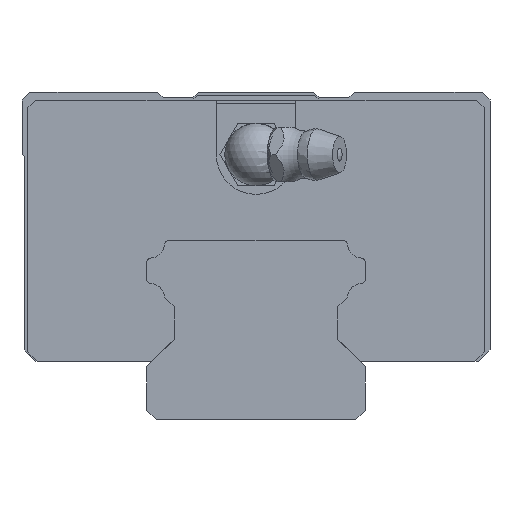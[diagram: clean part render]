
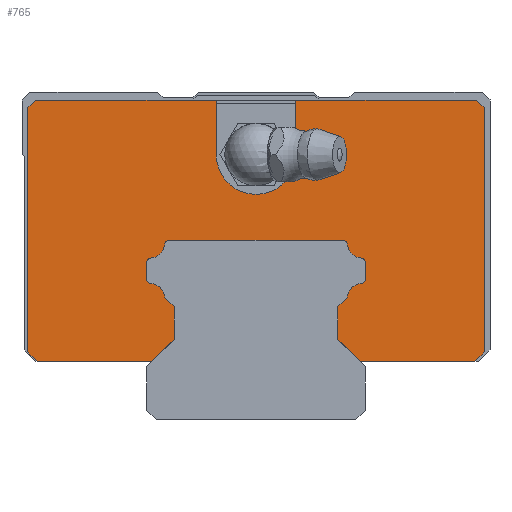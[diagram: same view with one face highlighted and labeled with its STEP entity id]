
A CAD part, front view. The second image highlights one B-rep face of the part: STEP entity #765.
In plain terms, the highlighted planar face has unit normal (0, -1, 0).
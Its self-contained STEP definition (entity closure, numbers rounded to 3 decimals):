
#585=CIRCLE('',#3642,0.5);
#587=CIRCLE('',#3645,2.);
#589=CIRCLE('',#3654,2.);
#591=CIRCLE('',#3657,0.5);
#593=CIRCLE('',#3661,0.5);
#595=CIRCLE('',#3664,2.);
#597=CIRCLE('',#3667,0.5);
#599=CIRCLE('',#3671,0.5);
#601=CIRCLE('',#3674,2.);
#603=CIRCLE('',#3677,0.5);
#617=CIRCLE('',#3713,5.1);
#765=ADVANCED_FACE('',(#1035),#904,.F.);
#904=PLANE('',#3714);
#1035=FACE_OUTER_BOUND('',#1234,.T.);
#1234=EDGE_LOOP('',(#1851,#1852,#1853,#1854,#1855,#1856,#1857,#1858,#1859,
#1860,#1861,#1862,#1863,#1864,#1865,#1866,#1867,#1868,#1869,#1870,#1871,
#1872,#1873,#1874,#1875,#1876,#1877,#1878,#1879,#1880,#1881,#1882));
#1851=ORIENTED_EDGE('',*,*,#2731,.F.);
#1852=ORIENTED_EDGE('',*,*,#2787,.T.);
#1853=ORIENTED_EDGE('',*,*,#2705,.T.);
#1854=ORIENTED_EDGE('',*,*,#2709,.T.);
#1855=ORIENTED_EDGE('',*,*,#2685,.T.);
#1856=ORIENTED_EDGE('',*,*,#2693,.T.);
#1857=ORIENTED_EDGE('',*,*,#2813,.F.);
#1858=ORIENTED_EDGE('',*,*,#2814,.F.);
#1859=ORIENTED_EDGE('',*,*,#2815,.F.);
#1860=ORIENTED_EDGE('',*,*,#2689,.T.);
#1861=ORIENTED_EDGE('',*,*,#2699,.T.);
#1862=ORIENTED_EDGE('',*,*,#2702,.T.);
#1863=ORIENTED_EDGE('',*,*,#2681,.T.);
#1864=ORIENTED_EDGE('',*,*,#2781,.T.);
#1865=ORIENTED_EDGE('',*,*,#2727,.F.);
#1866=ORIENTED_EDGE('',*,*,#2724,.F.);
#1867=ORIENTED_EDGE('',*,*,#2721,.F.);
#1868=ORIENTED_EDGE('',*,*,#2718,.F.);
#1869=ORIENTED_EDGE('',*,*,#2712,.F.);
#1870=ORIENTED_EDGE('',*,*,#2779,.F.);
#1871=ORIENTED_EDGE('',*,*,#2776,.F.);
#1872=ORIENTED_EDGE('',*,*,#2770,.F.);
#1873=ORIENTED_EDGE('',*,*,#2767,.F.);
#1874=ORIENTED_EDGE('',*,*,#2764,.F.);
#1875=ORIENTED_EDGE('',*,*,#2761,.F.);
#1876=ORIENTED_EDGE('',*,*,#2758,.F.);
#1877=ORIENTED_EDGE('',*,*,#2752,.F.);
#1878=ORIENTED_EDGE('',*,*,#2749,.F.);
#1879=ORIENTED_EDGE('',*,*,#2746,.F.);
#1880=ORIENTED_EDGE('',*,*,#2740,.F.);
#1881=ORIENTED_EDGE('',*,*,#2737,.F.);
#1882=ORIENTED_EDGE('',*,*,#2734,.F.);
#2315=VERTEX_POINT('',#5234);
#2317=VERTEX_POINT('',#5237);
#2319=VERTEX_POINT('',#5243);
#2321=VERTEX_POINT('',#5246);
#2323=VERTEX_POINT('',#5252);
#2325=VERTEX_POINT('',#5255);
#2328=VERTEX_POINT('',#5261);
#2331=VERTEX_POINT('',#5271);
#2334=VERTEX_POINT('',#5282);
#2336=VERTEX_POINT('',#5285);
#2340=VERTEX_POINT('',#5297);
#2341=VERTEX_POINT('',#5299);
#2346=VERTEX_POINT('',#5323);
#2348=VERTEX_POINT('',#5329);
#2350=VERTEX_POINT('',#5335);
#2352=VERTEX_POINT('',#5341);
#2354=VERTEX_POINT('',#5347);
#2356=VERTEX_POINT('',#5350);
#2358=VERTEX_POINT('',#5356);
#2360=VERTEX_POINT('',#5362);
#2362=VERTEX_POINT('',#5368);
#2367=VERTEX_POINT('',#5392);
#2369=VERTEX_POINT('',#5398);
#2371=VERTEX_POINT('',#5404);
#2376=VERTEX_POINT('',#5428);
#2378=VERTEX_POINT('',#5434);
#2380=VERTEX_POINT('',#5440);
#2382=VERTEX_POINT('',#5446);
#2384=VERTEX_POINT('',#5452);
#2389=VERTEX_POINT('',#5476);
#2415=VERTEX_POINT('',#5561);
#2416=VERTEX_POINT('',#5563);
#2681=EDGE_CURVE('',#2317,#2315,#3039,.T.);
#2685=EDGE_CURVE('',#2321,#2319,#3043,.T.);
#2689=EDGE_CURVE('',#2325,#2323,#3047,.T.);
#2693=EDGE_CURVE('',#2319,#2328,#3051,.T.);
#2699=EDGE_CURVE('',#2323,#2331,#3057,.T.);
#2702=EDGE_CURVE('',#2331,#2317,#3059,.T.);
#2705=EDGE_CURVE('',#2336,#2334,#3062,.T.);
#2709=EDGE_CURVE('',#2334,#2321,#3065,.T.);
#2712=EDGE_CURVE('',#2340,#2341,#585,.T.);
#2718=EDGE_CURVE('',#2341,#2346,#587,.T.);
#2721=EDGE_CURVE('',#2346,#2348,#3069,.T.);
#2724=EDGE_CURVE('',#2348,#2350,#3072,.T.);
#2727=EDGE_CURVE('',#2350,#2352,#3075,.T.);
#2731=EDGE_CURVE('',#2354,#2356,#3079,.T.);
#2734=EDGE_CURVE('',#2356,#2358,#3082,.T.);
#2737=EDGE_CURVE('',#2358,#2360,#3085,.T.);
#2740=EDGE_CURVE('',#2360,#2362,#589,.T.);
#2746=EDGE_CURVE('',#2362,#2367,#591,.T.);
#2749=EDGE_CURVE('',#2367,#2369,#3089,.T.);
#2752=EDGE_CURVE('',#2369,#2371,#593,.T.);
#2758=EDGE_CURVE('',#2371,#2376,#595,.T.);
#2761=EDGE_CURVE('',#2376,#2378,#597,.T.);
#2764=EDGE_CURVE('',#2378,#2380,#3094,.T.);
#2767=EDGE_CURVE('',#2380,#2382,#599,.T.);
#2770=EDGE_CURVE('',#2382,#2384,#601,.T.);
#2776=EDGE_CURVE('',#2384,#2389,#603,.T.);
#2779=EDGE_CURVE('',#2389,#2340,#3099,.T.);
#2781=EDGE_CURVE('',#2315,#2352,#3101,.T.);
#2787=EDGE_CURVE('',#2354,#2336,#3107,.T.);
#2813=EDGE_CURVE('',#2415,#2328,#3121,.T.);
#2814=EDGE_CURVE('',#2416,#2415,#617,.T.);
#2815=EDGE_CURVE('',#2325,#2416,#3122,.T.);
#3039=LINE('',#5236,#3317);
#3043=LINE('',#5245,#3321);
#3047=LINE('',#5254,#3325);
#3051=LINE('',#5262,#3329);
#3057=LINE('',#5273,#3335);
#3059=LINE('',#5278,#3337);
#3062=LINE('',#5284,#3340);
#3065=LINE('',#5292,#3343);
#3069=LINE('',#5328,#3347);
#3072=LINE('',#5334,#3350);
#3075=LINE('',#5340,#3353);
#3079=LINE('',#5349,#3357);
#3082=LINE('',#5355,#3360);
#3085=LINE('',#5361,#3363);
#3089=LINE('',#5397,#3367);
#3094=LINE('',#5439,#3372);
#3099=LINE('',#5481,#3377);
#3101=LINE('',#5484,#3379);
#3107=LINE('',#5495,#3385);
#3121=LINE('',#5560,#3399);
#3122=LINE('',#5564,#3400);
#3317=VECTOR('',#4155,1.);
#3321=VECTOR('',#4161,1.);
#3325=VECTOR('',#4167,1.);
#3329=VECTOR('',#4171,1.);
#3335=VECTOR('',#4179,1.);
#3337=VECTOR('',#4185,1.);
#3340=VECTOR('',#4190,1.);
#3343=VECTOR('',#4197,1.);
#3347=VECTOR('',#4215,1.);
#3350=VECTOR('',#4220,1.);
#3353=VECTOR('',#4225,1.);
#3357=VECTOR('',#4231,1.);
#3360=VECTOR('',#4236,1.);
#3363=VECTOR('',#4241,1.);
#3367=VECTOR('',#4259,1.);
#3372=VECTOR('',#4284,1.);
#3377=VECTOR('',#4309,1.);
#3379=VECTOR('',#4313,1.);
#3385=VECTOR('',#4321,1.);
#3399=VECTOR('',#4397,1.);
#3400=VECTOR('',#4400,1.);
#3642=AXIS2_PLACEMENT_3D('',#5298,#4202,#4203);
#3645=AXIS2_PLACEMENT_3D('',#5322,#4208,#4209);
#3654=AXIS2_PLACEMENT_3D('',#5367,#4246,#4247);
#3657=AXIS2_PLACEMENT_3D('',#5391,#4252,#4253);
#3661=AXIS2_PLACEMENT_3D('',#5403,#4264,#4265);
#3664=AXIS2_PLACEMENT_3D('',#5427,#4270,#4271);
#3667=AXIS2_PLACEMENT_3D('',#5433,#4277,#4278);
#3671=AXIS2_PLACEMENT_3D('',#5445,#4289,#4290);
#3674=AXIS2_PLACEMENT_3D('',#5451,#4296,#4297);
#3677=AXIS2_PLACEMENT_3D('',#5475,#4302,#4303);
#3713=AXIS2_PLACEMENT_3D('',#5562,#4398,#4399);
#3714=AXIS2_PLACEMENT_3D('',#5565,#4401,#4402);
#4155=DIRECTION('',(0.707,0.,-0.707));
#4161=DIRECTION('',(-0.707,0.,0.707));
#4167=DIRECTION('',(-1.,0.,0.));
#4171=DIRECTION('',(-1.,0.,0.));
#4179=DIRECTION('',(-0.707,0.,-0.707));
#4185=DIRECTION('',(0.,0.,-1.));
#4190=DIRECTION('',(0.707,0.,0.707));
#4197=DIRECTION('',(0.,0.,1.));
#4202=DIRECTION('',(0.,-1.,0.));
#4203=DIRECTION('',(0.,0.,1.));
#4208=DIRECTION('',(0.,1.,0.));
#4209=DIRECTION('',(0.,0.,1.));
#4215=DIRECTION('',(0.707,0.,-0.707));
#4220=DIRECTION('',(0.,0.,-1.));
#4225=DIRECTION('',(-0.707,0.,-0.707));
#4231=DIRECTION('',(-0.707,0.,0.707));
#4236=DIRECTION('',(0.,0.,1.));
#4241=DIRECTION('',(0.707,0.,0.707));
#4246=DIRECTION('',(0.,1.,0.));
#4247=DIRECTION('',(0.,0.,1.));
#4252=DIRECTION('',(0.,-1.,0.));
#4253=DIRECTION('',(0.,0.,1.));
#4259=DIRECTION('',(0.,0.,1.));
#4264=DIRECTION('',(0.,-1.,0.));
#4265=DIRECTION('',(0.,0.,1.));
#4270=DIRECTION('',(0.,1.,0.));
#4271=DIRECTION('',(0.,0.,1.));
#4277=DIRECTION('',(0.,-1.,0.));
#4278=DIRECTION('',(0.,0.,1.));
#4284=DIRECTION('',(-1.,0.,0.));
#4289=DIRECTION('',(0.,-1.,0.));
#4290=DIRECTION('',(0.,0.,1.));
#4296=DIRECTION('',(0.,1.,0.));
#4297=DIRECTION('',(0.,0.,1.));
#4302=DIRECTION('',(0.,-1.,0.));
#4303=DIRECTION('',(0.,0.,1.));
#4309=DIRECTION('',(0.,0.,-1.));
#4313=DIRECTION('',(1.,0.,0.));
#4321=DIRECTION('',(1.,0.,0.));
#4397=DIRECTION('',(0.,0.,1.));
#4398=DIRECTION('',(0.,-1.,0.));
#4399=DIRECTION('',(-1.,0.,0.));
#4400=DIRECTION('',(0.,0.,-1.));
#4401=DIRECTION('',(0.,1.,0.));
#4402=DIRECTION('',(0.,0.,1.));
#5234=CARTESIAN_POINT('',(-28.05,-13.8,7.5));
#5236=CARTESIAN_POINT('',(-29.25,-13.8,8.7));
#5237=CARTESIAN_POINT('',(-29.25,-13.8,8.7));
#5243=CARTESIAN_POINT('',(28.25,-13.8,41.));
#5245=CARTESIAN_POINT('',(29.25,-13.8,40.));
#5246=CARTESIAN_POINT('',(29.25,-13.8,40.));
#5252=CARTESIAN_POINT('',(-28.25,-13.8,41.));
#5254=CARTESIAN_POINT('',(28.25,-13.8,41.));
#5255=CARTESIAN_POINT('',(-5.1,-13.8,41.));
#5261=CARTESIAN_POINT('',(5.1,-13.8,41.));
#5262=CARTESIAN_POINT('',(28.25,-13.8,41.));
#5271=CARTESIAN_POINT('',(-29.25,-13.8,40.));
#5273=CARTESIAN_POINT('',(-28.25,-13.8,41.));
#5278=CARTESIAN_POINT('',(-29.25,-13.8,40.));
#5282=CARTESIAN_POINT('',(29.25,-13.8,8.7));
#5284=CARTESIAN_POINT('',(28.05,-13.8,7.5));
#5285=CARTESIAN_POINT('',(28.05,-13.8,7.5));
#5292=CARTESIAN_POINT('',(29.25,-13.8,8.7));
#5297=CARTESIAN_POINT('',(-14.,-13.8,17.995));
#5298=CARTESIAN_POINT('',(-13.5,-13.8,17.995));
#5299=CARTESIAN_POINT('',(-13.536,-13.8,17.496));
#5322=CARTESIAN_POINT('',(-13.691,-13.8,15.502));
#5323=CARTESIAN_POINT('',(-11.701,-13.8,15.703));
#5328=CARTESIAN_POINT('',(12.276,-13.8,-8.274));
#5329=CARTESIAN_POINT('',(-10.5,-13.8,14.502));
#5334=CARTESIAN_POINT('',(-10.5,-13.8,24.35));
#5335=CARTESIAN_POINT('',(-10.5,-13.8,10.3));
#5340=CARTESIAN_POINT('',(24.225,-13.8,45.025));
#5341=CARTESIAN_POINT('',(-13.3,-13.8,7.5));
#5347=CARTESIAN_POINT('',(13.3,-13.8,7.5));
#5349=CARTESIAN_POINT('',(20.675,-13.8,0.125));
#5350=CARTESIAN_POINT('',(10.5,-13.8,10.3));
#5355=CARTESIAN_POINT('',(10.5,-13.8,24.35));
#5356=CARTESIAN_POINT('',(10.5,-13.8,14.502));
#5361=CARTESIAN_POINT('',(32.624,-13.8,36.626));
#5362=CARTESIAN_POINT('',(11.701,-13.8,15.703));
#5367=CARTESIAN_POINT('',(13.691,-13.8,15.502));
#5368=CARTESIAN_POINT('',(13.536,-13.8,17.496));
#5391=CARTESIAN_POINT('',(13.5,-13.8,17.995));
#5392=CARTESIAN_POINT('',(14.,-13.8,17.995));
#5397=CARTESIAN_POINT('',(14.,-13.8,24.35));
#5398=CARTESIAN_POINT('',(14.,-13.8,20.226));
#5403=CARTESIAN_POINT('',(13.5,-13.8,20.226));
#5404=CARTESIAN_POINT('',(13.536,-13.8,20.725));
#5427=CARTESIAN_POINT('',(13.691,-13.8,22.719));
#5428=CARTESIAN_POINT('',(11.699,-13.8,22.544));
#5433=CARTESIAN_POINT('',(11.201,-13.8,22.5));
#5434=CARTESIAN_POINT('',(11.201,-13.8,23.));
#5439=CARTESIAN_POINT('',(44.9,-13.8,23.));
#5440=CARTESIAN_POINT('',(-11.201,-13.8,23.));
#5445=CARTESIAN_POINT('',(-11.201,-13.8,22.5));
#5446=CARTESIAN_POINT('',(-11.699,-13.8,22.544));
#5451=CARTESIAN_POINT('',(-13.691,-13.8,22.719));
#5452=CARTESIAN_POINT('',(-13.536,-13.8,20.725));
#5475=CARTESIAN_POINT('',(-13.5,-13.8,20.226));
#5476=CARTESIAN_POINT('',(-14.,-13.8,20.226));
#5481=CARTESIAN_POINT('',(-14.,-13.8,24.35));
#5484=CARTESIAN_POINT('',(-28.05,-13.8,7.5));
#5495=CARTESIAN_POINT('',(-28.05,-13.8,7.5));
#5560=CARTESIAN_POINT('',(5.1,-13.8,34.));
#5561=CARTESIAN_POINT('',(5.1,-13.8,34.));
#5562=CARTESIAN_POINT('',(0.,-13.8,34.));
#5563=CARTESIAN_POINT('',(-5.1,-13.8,34.));
#5564=CARTESIAN_POINT('',(-5.1,-13.8,41.));
#5565=CARTESIAN_POINT('',(44.9,-13.8,24.35));
